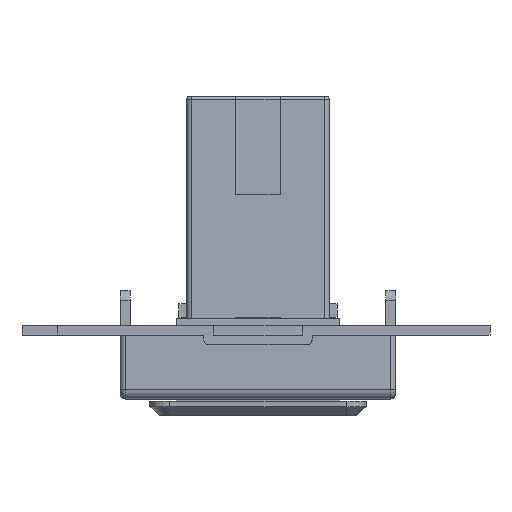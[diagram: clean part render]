
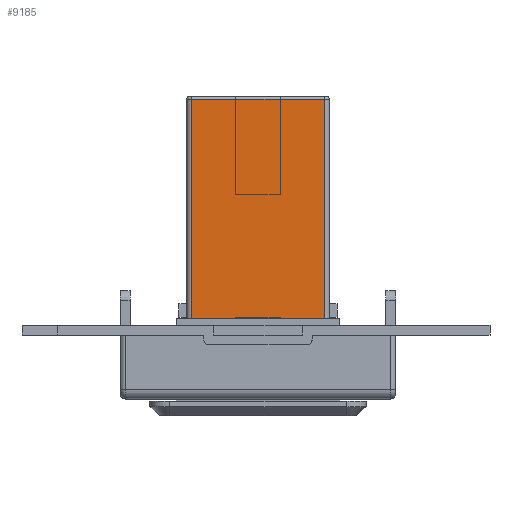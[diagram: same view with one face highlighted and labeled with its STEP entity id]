
A CAD part, front view. The second image highlights one B-rep face of the part: STEP entity #9185.
In plain terms, the highlighted planar face has unit normal (0, -1, 0).
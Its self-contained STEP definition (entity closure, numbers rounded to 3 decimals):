
#8186 = VERTEX_POINT('',#8187);
#8187 = CARTESIAN_POINT('',(6.75,-8.05,32.2));
#8194 = EDGE_CURVE('',#8195,#8186,#8197,.T.);
#8195 = VERTEX_POINT('',#8196);
#8196 = CARTESIAN_POINT('',(6.75,-8.05,0.3));
#8197 = LINE('',#8198,#8199);
#8198 = CARTESIAN_POINT('',(6.75,-8.05,0.));
#8199 = VECTOR('',#8200,1.);
#8200 = DIRECTION('',(0.,0.,1.));
#8322 = EDGE_CURVE('',#8323,#8195,#8325,.T.);
#8323 = VERTEX_POINT('',#8324);
#8324 = CARTESIAN_POINT('',(-6.75,-8.05,0.3));
#8325 = LINE('',#8326,#8327);
#8326 = CARTESIAN_POINT('',(-6.75,-8.05,0.3));
#8327 = VECTOR('',#8328,1.);
#8328 = DIRECTION('',(1.,0.,0.));
#8696 = VERTEX_POINT('',#8697);
#8697 = CARTESIAN_POINT('',(-6.75,-8.05,32.2));
#8704 = EDGE_CURVE('',#8696,#8186,#8705,.T.);
#8705 = LINE('',#8706,#8707);
#8706 = CARTESIAN_POINT('',(-6.75,-8.05,32.2));
#8707 = VECTOR('',#8708,1.);
#8708 = DIRECTION('',(1.,0.,0.));
#9078 = EDGE_CURVE('',#8323,#8696,#9079,.T.);
#9079 = LINE('',#9080,#9081);
#9080 = CARTESIAN_POINT('',(-6.75,-8.05,0.));
#9081 = VECTOR('',#9082,1.);
#9082 = DIRECTION('',(0.,0.,1.));
#9185 = ADVANCED_FACE('',(#9186,#9192),#9226,.F.);
#9186 = FACE_BOUND('',#9187,.F.);
#9187 = EDGE_LOOP('',(#9188,#9189,#9190,#9191));
#9188 = ORIENTED_EDGE('',*,*,#9078,.T.);
#9189 = ORIENTED_EDGE('',*,*,#8704,.T.);
#9190 = ORIENTED_EDGE('',*,*,#8194,.F.);
#9191 = ORIENTED_EDGE('',*,*,#8322,.F.);
#9192 = FACE_BOUND('',#9193,.F.);
#9193 = EDGE_LOOP('',(#9194,#9204,#9212,#9220));
#9194 = ORIENTED_EDGE('',*,*,#9195,.F.);
#9195 = EDGE_CURVE('',#9196,#9198,#9200,.T.);
#9196 = VERTEX_POINT('',#9197);
#9197 = CARTESIAN_POINT('',(-4.,-8.05,24.4));
#9198 = VERTEX_POINT('',#9199);
#9199 = CARTESIAN_POINT('',(-4.,-8.05,25.9));
#9200 = LINE('',#9201,#9202);
#9201 = CARTESIAN_POINT('',(-4.,-8.05,24.4));
#9202 = VECTOR('',#9203,1.);
#9203 = DIRECTION('',(0.,0.,1.));
#9204 = ORIENTED_EDGE('',*,*,#9205,.T.);
#9205 = EDGE_CURVE('',#9196,#9206,#9208,.T.);
#9206 = VERTEX_POINT('',#9207);
#9207 = CARTESIAN_POINT('',(4.,-8.05,24.4));
#9208 = LINE('',#9209,#9210);
#9209 = CARTESIAN_POINT('',(-4.,-8.05,24.4));
#9210 = VECTOR('',#9211,1.);
#9211 = DIRECTION('',(1.,0.,0.));
#9212 = ORIENTED_EDGE('',*,*,#9213,.T.);
#9213 = EDGE_CURVE('',#9206,#9214,#9216,.T.);
#9214 = VERTEX_POINT('',#9215);
#9215 = CARTESIAN_POINT('',(4.,-8.05,25.9));
#9216 = LINE('',#9217,#9218);
#9217 = CARTESIAN_POINT('',(4.,-8.05,24.4));
#9218 = VECTOR('',#9219,1.);
#9219 = DIRECTION('',(0.,0.,1.));
#9220 = ORIENTED_EDGE('',*,*,#9221,.F.);
#9221 = EDGE_CURVE('',#9198,#9214,#9222,.T.);
#9222 = LINE('',#9223,#9224);
#9223 = CARTESIAN_POINT('',(-4.,-8.05,25.9));
#9224 = VECTOR('',#9225,1.);
#9225 = DIRECTION('',(1.,0.,0.));
#9226 = PLANE('',#9227);
#9227 = AXIS2_PLACEMENT_3D('',#9228,#9229,#9230);
#9228 = CARTESIAN_POINT('',(-7.25,-8.05,0.));
#9229 = DIRECTION('',(0.,1.,0.));
#9230 = DIRECTION('',(1.,0.,0.));
